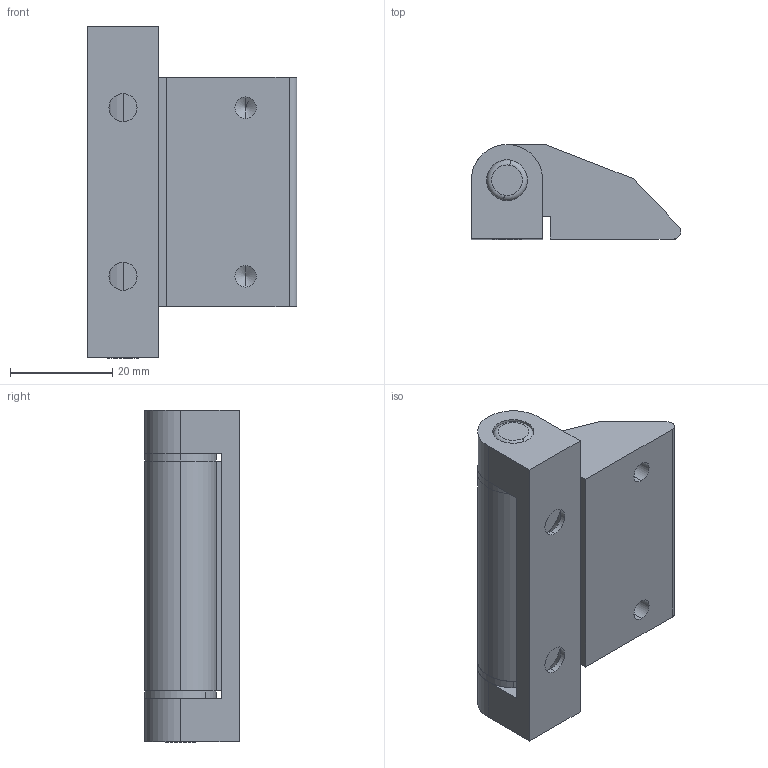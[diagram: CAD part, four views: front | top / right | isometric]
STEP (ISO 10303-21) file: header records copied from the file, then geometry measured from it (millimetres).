
FILE_DESCRIPTION (( 'STEP AP203' ), '1' );
FILE_NAME ('1.33.02.0004-cerniera-mobile-Milper.STEP', '2019-04-23T12:47:59', ( '' ), ( '' ), 'SwSTEP 2.0', 'SolidWorks 2019', '' );
FILE_SCHEMA (( 'CONFIG_CONTROL_DESIGN' ));
Length unit declared in the file: millimetre
Products named in the file (1): 1.33.02.0004-cerniera-mobile-Milper
Bounding box: 41 x 18.5 x 65 mm (x, y, z)
Volume: 28300.1 mm3; surface area: 14507.6 mm2
Topology: 5 solids, 5 shells, 69 faces, 159 edges, 100 vertices
Faces by surface type: cylinder 33, plane 24, cone 8, torus 4
Entity records: 2044 total; most frequent: DIRECTION 373, CARTESIAN_POINT 325, ORIENTED_EDGE 310, EDGE_CURVE 155, AXIS2_PLACEMENT_3D 148, VERTEX_POINT 100, EDGE_LOOP 87, CIRCLE 78
